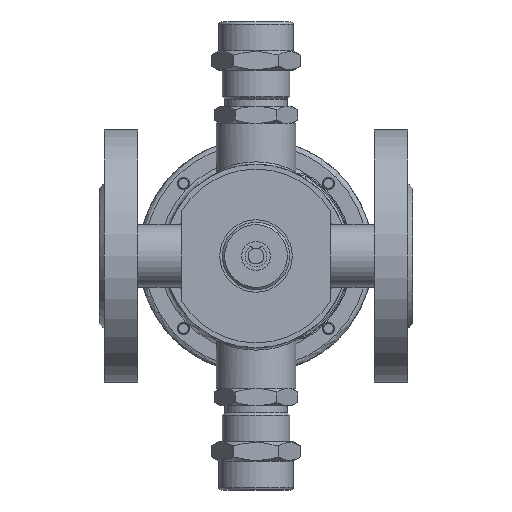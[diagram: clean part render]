
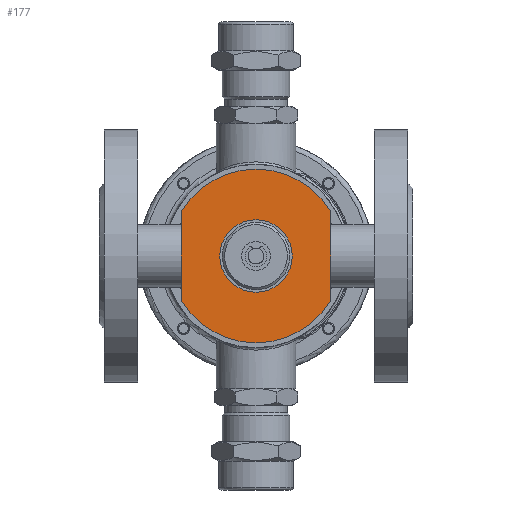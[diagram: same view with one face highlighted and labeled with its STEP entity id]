
A CAD part, front view. The second image highlights one B-rep face of the part: STEP entity #177.
In plain terms, the highlighted planar face has unit normal (0, -1, 0).
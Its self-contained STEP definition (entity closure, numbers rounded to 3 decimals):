
#177=ADVANCED_FACE('',(#5743,#5745),#5747,.T.);
#5743=FACE_BOUND('',#5744,.T.);
#5744=EDGE_LOOP('',(#20925));
#5745=FACE_OUTER_BOUND('',#5746,.T.);
#5746=EDGE_LOOP('',(#20926,#20927,#20928,#20929));
#5747=PLANE('',#5748);
#5748=AXIS2_PLACEMENT_3D('',#5749,#5750,#5751);
#5749=CARTESIAN_POINT('',(0.,-15.5,0.));
#5750=DIRECTION('',(0.,-1.,0.));
#5751=DIRECTION('',(-1.,0.,0.));
#20925=ORIENTED_EDGE('',*,*,#33969,.F.);
#20926=ORIENTED_EDGE('',*,*,#33970,.T.);
#20927=ORIENTED_EDGE('',*,*,#33971,.T.);
#20928=ORIENTED_EDGE('',*,*,#33972,.T.);
#20929=ORIENTED_EDGE('',*,*,#33973,.T.);
#33969=EDGE_CURVE('',#38616,#38616,#38618,.T.);
#33970=EDGE_CURVE('',#38619,#38620,#38621,.F.);
#33971=EDGE_CURVE('',#38620,#38622,#38623,.T.);
#33972=EDGE_CURVE('',#38622,#38624,#38625,.F.);
#33973=EDGE_CURVE('',#38624,#38619,#38626,.T.);
#38616=VERTEX_POINT('',#46523);
#38618=CIRCLE('',#46527,15.);
#38619=VERTEX_POINT('',#46531);
#38620=VERTEX_POINT('',#46532);
#38621=LINE('',#46533,#46534);
#38622=VERTEX_POINT('',#46536);
#38623=CIRCLE('',#46537,36.);
#38624=VERTEX_POINT('',#46541);
#38625=LINE('',#46542,#46543);
#38626=CIRCLE('',#46545,36.);
#46523=CARTESIAN_POINT('',(-15.,-15.5,0.));
#46527=AXIS2_PLACEMENT_3D('',#46528,#46529,#46530);
#46528=CARTESIAN_POINT('',(0.,-15.5,0.));
#46529=DIRECTION('',(0.,-1.,0.));
#46530=DIRECTION('',(-1.,0.,0.));
#46531=CARTESIAN_POINT('',(-31.,-15.5,18.303));
#46532=CARTESIAN_POINT('',(-31.,-15.5,-18.303));
#46533=CARTESIAN_POINT('',(-31.,-15.5,-18.303));
#46534=VECTOR('',#46535,1.);
#46535=DIRECTION('',(0.,0.,1.));
#46536=CARTESIAN_POINT('',(31.,-15.5,-18.303));
#46537=AXIS2_PLACEMENT_3D('',#46538,#46539,#46540);
#46538=CARTESIAN_POINT('',(0.,-15.5,0.));
#46539=DIRECTION('',(0.,-1.,0.));
#46540=DIRECTION('',(-0.861,0.,-0.508));
#46541=CARTESIAN_POINT('',(31.,-15.5,18.303));
#46542=CARTESIAN_POINT('',(31.,-15.5,18.303));
#46543=VECTOR('',#46544,1.);
#46544=DIRECTION('',(0.,0.,-1.));
#46545=AXIS2_PLACEMENT_3D('',#46546,#46547,#46548);
#46546=CARTESIAN_POINT('',(0.,-15.5,0.));
#46547=DIRECTION('',(0.,-1.,0.));
#46548=DIRECTION('',(0.861,0.,0.508));
